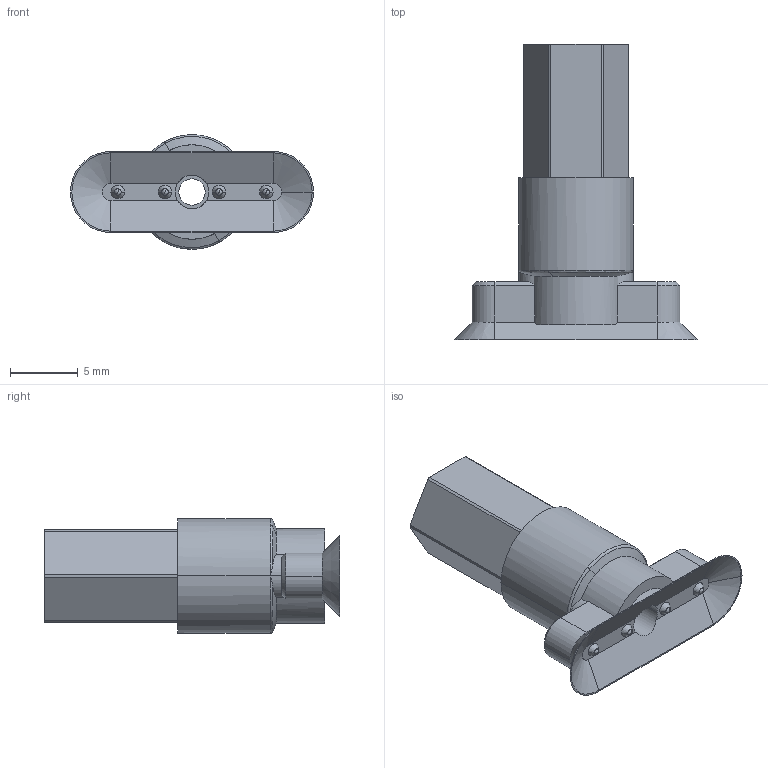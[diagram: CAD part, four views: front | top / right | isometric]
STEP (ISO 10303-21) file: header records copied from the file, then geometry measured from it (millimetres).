
FILE_DESCRIPTION (( 'STEP AP214' ), '1' );
FILE_NAME ('10FO.18X6.001-M5F.STEP', '2026-04-14T15:27:47', ( '' ), ( '' ), 'SwSTEP 2.0', 'SolidWorks 2025', '' );
FILE_SCHEMA (( 'AUTOMOTIVE_DESIGN' ));
Length unit declared in the file: inch
Products named in the file (3): 130.005; 10FO.18X6.001-M5F; 10FO.18X6.001
Assembly tree (2 placements, depth 2):
  10FO.18X6.001-M5F
    10FO.18X6.001
    130.005
Bounding box: 18 x 21.88 x 8.5 mm (x, y, z)
Volume: 864.8 mm3; surface area: 1292.8 mm2
Topology: 2 solids, 2 shells, 98 faces, 255 edges, 160 vertices
Faces by surface type: plane 33, cone 27, cylinder 26, bspline 12
Full cylindrical faces by diameter (mm): 1.95 x1, 4.2 x1, 4.25 x1, 6 x1
Entity records: 3247 total; most frequent: CARTESIAN_POINT 876, DIRECTION 484, ORIENTED_EDGE 478, EDGE_CURVE 239, AXIS2_PLACEMENT_3D 192, VERTEX_POINT 159, EDGE_LOOP 116, FACE_OUTER_BOUND 102
